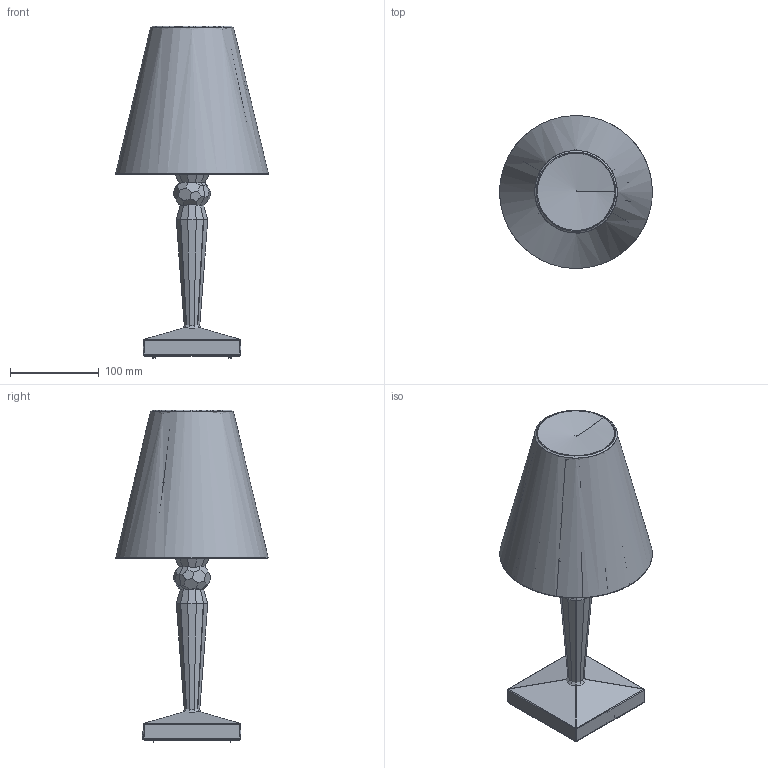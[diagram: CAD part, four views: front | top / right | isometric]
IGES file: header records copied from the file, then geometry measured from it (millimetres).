
Global section: file name: C:\Users\rendering\Desktop\3D\Big Battery\Big Battery_3D_Ferruccio Laviani_Kartell.igs; native system: Rhinoceros ( May 22 2017 ); preprocessor: Trout Lake IGES 012 May 22 2017; date: 190416.073310; units: millimetre
Bounding box: 172.14 x 172.04 x 374.4 mm (x, y, z)
Surface area: 369474.6 mm2 (no closed solid volume)
Topology: 0 solids, 0 shells, 3131 faces, 29990 edges, 29945 vertices
Faces by surface type: bspline 3131
